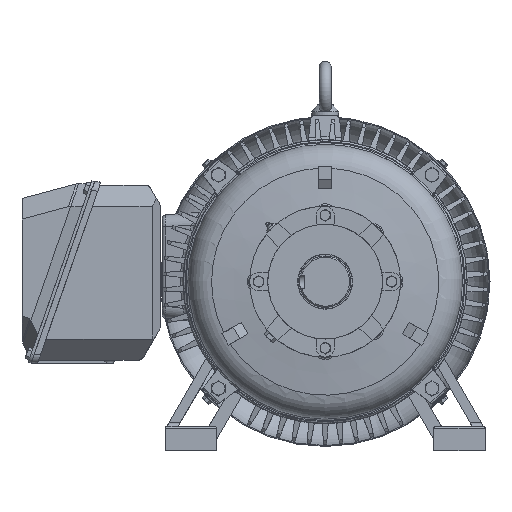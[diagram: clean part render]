
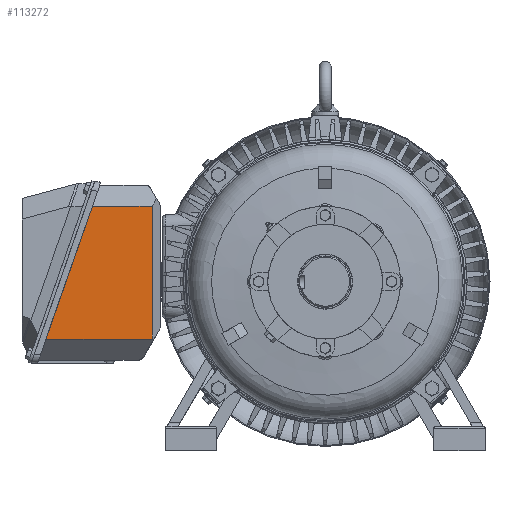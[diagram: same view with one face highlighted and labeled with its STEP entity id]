
A CAD part, front view. The second image highlights one B-rep face of the part: STEP entity #113272.
In plain terms, the highlighted planar face has unit normal (0, -1, 0) as drawn and (1, 0, 0) by its records, which use the part's own axes.
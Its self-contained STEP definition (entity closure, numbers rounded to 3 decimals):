
#6733=PLANE('',#120219);
#36475=ORIENTED_EDGE('',*,*,#50860,.T.);
#36476=ORIENTED_EDGE('',*,*,#50861,.F.);
#36477=ORIENTED_EDGE('',*,*,#50862,.F.);
#36478=ORIENTED_EDGE('',*,*,#50808,.F.);
#50808=EDGE_CURVE('',#60286,#60287,#70553,.T.);
#50860=EDGE_CURVE('',#60286,#60331,#70596,.T.);
#50861=EDGE_CURVE('',#60332,#60331,#70597,.T.);
#50862=EDGE_CURVE('',#60287,#60332,#70598,.T.);
#60286=VERTEX_POINT('',#216000);
#60287=VERTEX_POINT('',#216002);
#60331=VERTEX_POINT('',#216105);
#60332=VERTEX_POINT('',#216107);
#70553=LINE('',#216001,#80793);
#70596=LINE('',#216104,#80836);
#70597=LINE('',#216106,#80837);
#70598=LINE('',#216108,#80838);
#80793=VECTOR('',#143903,1000.);
#80836=VECTOR('',#143978,1000.);
#80837=VECTOR('',#143979,1000.);
#80838=VECTOR('',#143980,1000.);
#87894=EDGE_LOOP('',(#36475,#36476,#36477,#36478));
#95045=FACE_BOUND('',#87894,.T.);
#113272=ADVANCED_FACE('',(#95045),#6733,.F.);
#120219=AXIS2_PLACEMENT_3D('',#216103,#143976,#143977);
#143903=DIRECTION('',(0.,0.33,0.944));
#143976=DIRECTION('',(-1.,0.,0.));
#143977=DIRECTION('',(0.,-1.,0.));
#143978=DIRECTION('',(0.,1.,0.));
#143979=DIRECTION('',(0.,0.,-1.));
#143980=DIRECTION('',(0.,1.,0.));
#216000=CARTESIAN_POINT('',(125.,-190.414,-120.));
#216001=CARTESIAN_POINT('',(125.,-202.657,-155.));
#216002=CARTESIAN_POINT('',(125.,-113.456,100.));
#216103=CARTESIAN_POINT('',(125.,0.,0.));
#216104=CARTESIAN_POINT('',(125.,-433.209,-120.));
#216105=CARTESIAN_POINT('',(125.,-14.434,-120.));
#216106=CARTESIAN_POINT('',(125.,-14.434,155.));
#216107=CARTESIAN_POINT('',(125.,-14.434,100.));
#216108=CARTESIAN_POINT('',(125.,-433.209,100.));
